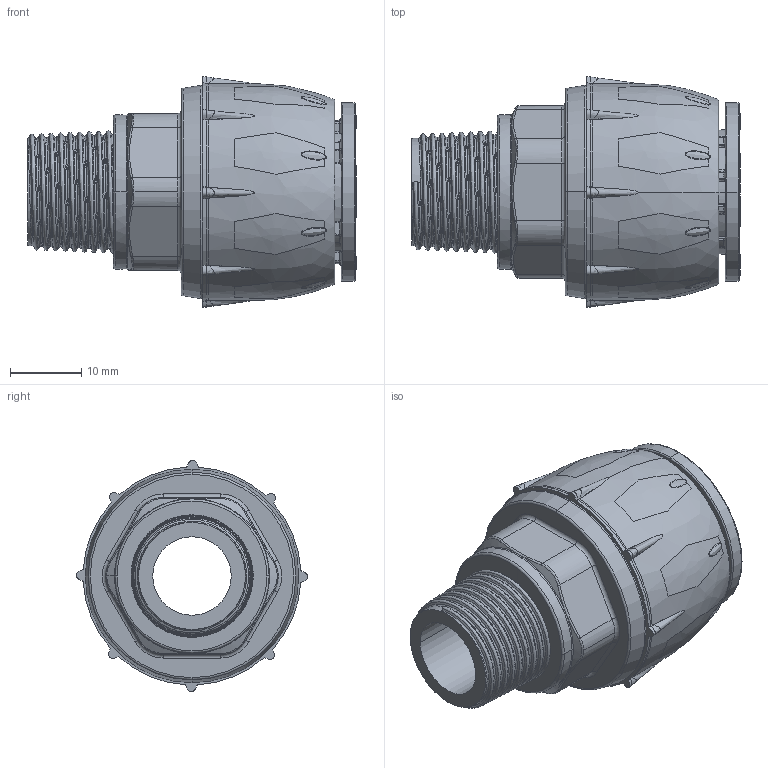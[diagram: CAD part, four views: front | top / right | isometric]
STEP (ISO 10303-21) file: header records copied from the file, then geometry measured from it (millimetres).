
FILE_DESCRIPTION (( 'STEP AP214' ), '1' );
FILE_NAME ('R211.015.038.STEP', '2019-10-24T13:37:39', ( '' ), ( '' ), 'SwSTEP 2.0', 'SolidWorks 2018', '' );
FILE_SCHEMA (( 'AUTOMOTIVE_DESIGN' ));
Length unit declared in the file: millimetre
Products named in the file (7): R209.015.002; R209.015.001; R216.015.000; R211.015.038-L; R211.015.038; OR_14.5x3; R209.015.003
Assembly tree (6 placements, depth 2):
  R211.015.038
    R211.015.038-L
    OR_14.5x3
    R209.015.001
    R209.015.002
    R216.015.000
    R209.015.003
Bounding box: 46 x 32.38 x 32.38 mm (x, y, z)
Volume: 13044.6 mm3; surface area: 14152.2 mm2
Topology: 6 solids, 6 shells, 1008 faces, 3088 edges, 2119 vertices
Faces by surface type: bspline 388, plane 269, cylinder 157, torus 101, cone 85, sphere 8
Entity records: 77334 total; most frequent: CARTESIAN_POINT 53622, ORIENTED_EDGE 6128, DIRECTION 3139, EDGE_CURVE 3064, VERTEX_POINT 2119, B_SPLINE_CURVE_WITH_KNOTS 1700, AXIS2_PLACEMENT_3D 1168, EDGE_LOOP 1071
